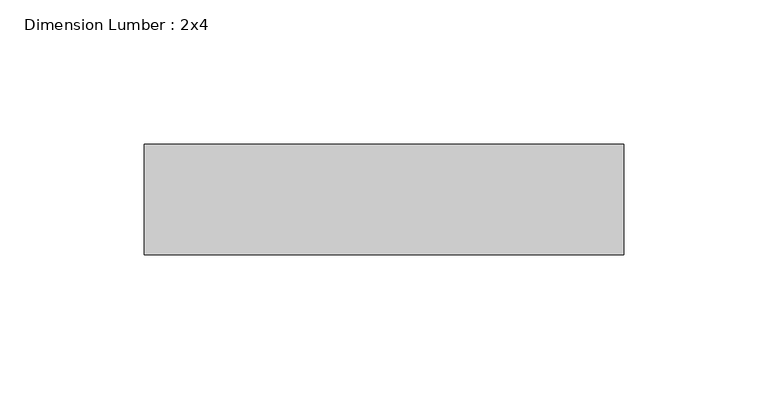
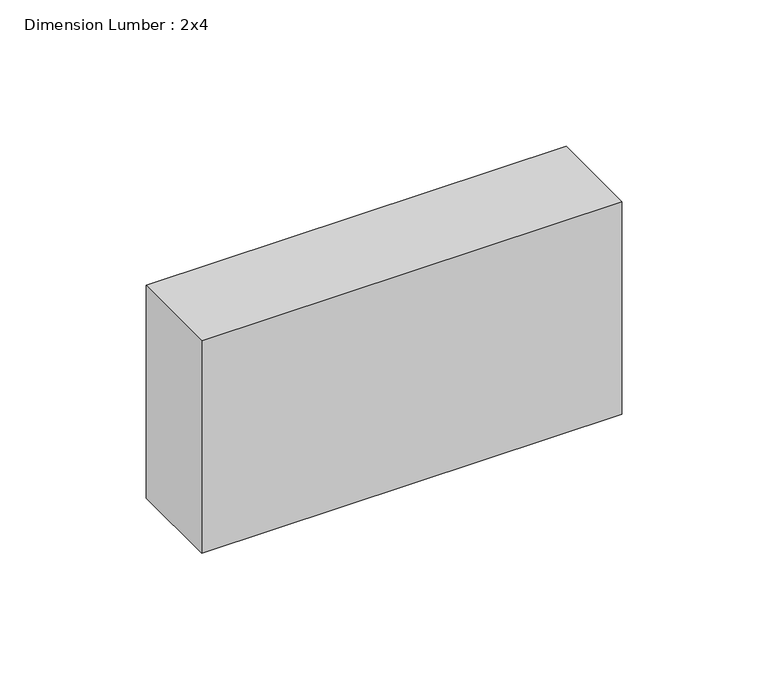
"""IFC4 building model written with IfcOpenShell, lengths in millimetres: beam geometry, Dimension Lumber : 2x4."""

from ifc_helpers import new_model, si_unit, frame, origin, place, context, project, spatial, polyline, outline, extrude, source, transform, mapped, element, save


def dimension_lumber_2x4_ef0ca650(model_context):
    return source(origin(), model_context, "Body", "SweptSolid", [
        extrude(outline(polyline([(82.9235294, 19.05), (82.9235294, -19.05), (-82.9235294, -19.05), (-82.9235294, 19.05), (82.9235294, 19.05)])), frame((0.0, 0.0, -44.45), z_axis=(0.0, 0.0, 1.0), x_axis=(1.0, 0.0, 0.0)), (0.0, 0.0, 1.0), 88.9),
    ])


if __name__ == "__main__":
    model = new_model("IFC4")
    model_context = context("Model", 3, world=origin())
    ifc_project = project(units=[si_unit("LENGTHUNIT", "METRE", prefix="MILLI")], contexts=[model_context])
    site = spatial("IfcSite", under=ifc_project)
    building = spatial("IfcBuilding", under=site)
    placement = place(None, origin())
    dimension_lumber_2x4_shape = dimension_lumber_2x4_ef0ca650(model_context)
    element("IfcBeam", 1, ObjectType="Dimension Lumber : 2x4", at=placement, inside=building, context=model_context, shape_type="MappedRepresentation", body=[
        mapped(dimension_lumber_2x4_shape, transform((0.0, 0.0, 0.0), x_axis=(1.0, 0.0, 0.0), y_axis=(0.0, 1.0, 0.0), z_axis=(0.0, 0.0, 1.0))),
    ])
    save(model, "model.ifc")
